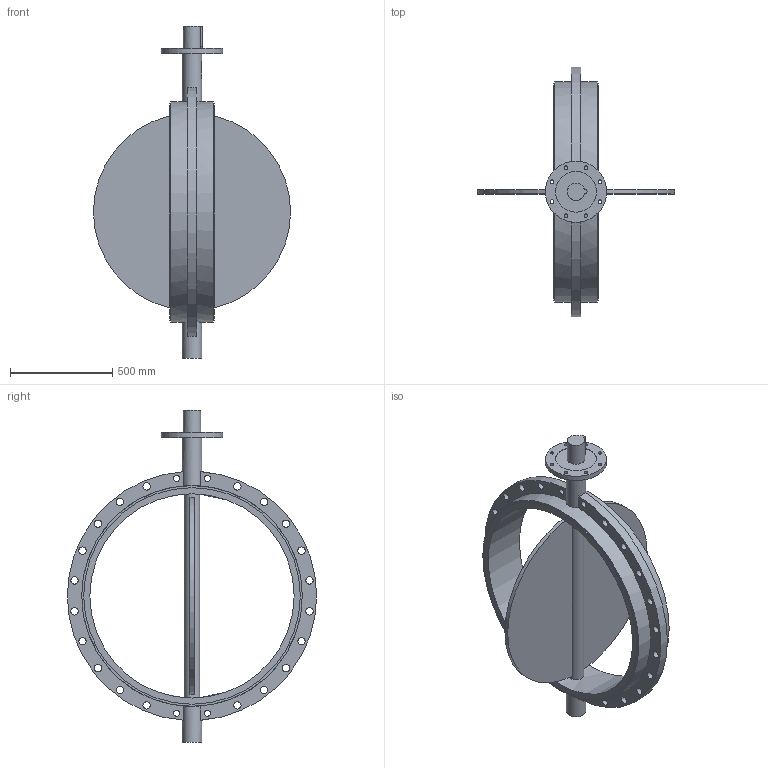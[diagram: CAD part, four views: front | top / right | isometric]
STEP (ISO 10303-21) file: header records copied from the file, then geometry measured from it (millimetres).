
FILE_DESCRIPTION(('STEP AP203'), '1');
FILE_NAME('青蜮铕 017W.YS_DN1000_PN10', '', ('UNSPECIFIED'), ('UNSPECIFIED'), 'ASCON STEP Converter 1.6', 'ASCON Math Kernel', '');
FILE_SCHEMA(('CONFIG_CONTROL_DESIGN'));
Length unit declared in the file: millimetre
Bounding box: 965 x 1220 x 1625 mm (x, y, z)
Volume: 60617184.8 mm3; surface area: 4119008.9 mm2
Topology: 1 solids, 1 shells, 92 faces, 234 edges, 155 vertices
Faces by surface type: cylinder 56, plane 36
Full cylindrical faces by diameter (mm): 18 x8, 29.211 x4, 36 x20, 75 x1, 85 x1, 95 x2, 200 x1, 300 x1, 1000 x1, 1060 x2, 1080 x2
Entity records: 4593 total; most frequent: CARTESIAN_POINT 1542, DIRECTION 472, ORIENTED_EDGE 384, EDGE_LOOP 213, AXIS2_PLACEMENT_3D 206, EDGE_CURVE 192, VERTEX_POINT 155, FACE_BOUND 133
